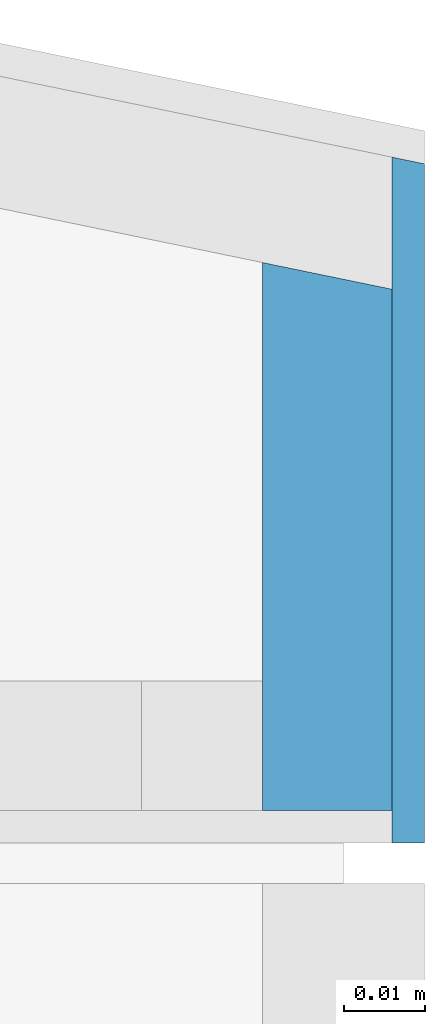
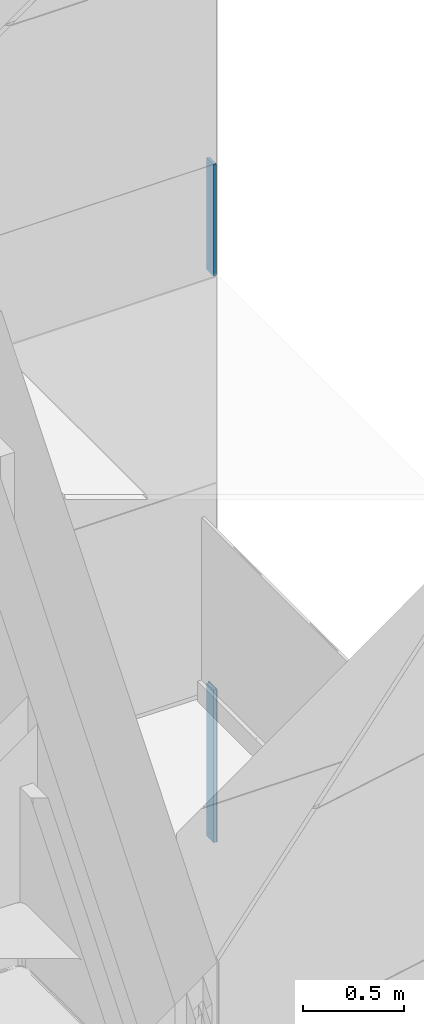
# One storey, part 31 of 125: 3 building element parts, 1 element without a shape of its own.
"""IFC2X3 building model written with IfcOpenShell, lengths in millimetres."""

from ifc_helpers import new_model, entity, si_unit, converted_unit, direction, frame, origin, place, context, subcontext, project, spatial, polyline, outline, extrude, material, type_object, element, aggregate, save


model = new_model("IFC2X3")

# Units and contexts
model_context = context("Model", 3, precision=0.01, world=origin(), true_north=direction((6.123233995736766e-17, 1.0)))
plan_context = context("Plan", 3, precision=0.01, world=origin(), true_north=direction((6.123233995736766e-17, 1.0)))
body_context = subcontext(model_context, "Body", "Model", "MODEL_VIEW")
ifc_project = project(units=[si_unit("LENGTHUNIT", "METRE", prefix="MILLI"), converted_unit("PLANEANGLEUNIT", "DEGREE", entity("IfcPlaneAngleMeasure", 0.017453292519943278), si_unit("PLANEANGLEUNIT", "RADIAN"), dimensions=[0, 0, 0, 0, 0, 0, 0]), si_unit("AREAUNIT", "SQUARE_METRE")], contexts=[model_context, plan_context])

# Site, building, storey
site_placement = place(None, origin())
site = spatial("IfcSite", under=ifc_project, at=site_placement, Name="Default", CompositionType="ELEMENT")
building_placement = place(site_placement, origin())
building = spatial("IfcBuilding", under=site, at=building_placement, CompositionType="ELEMENT")
storey_placement = place(building_placement, frame((0.0, 0.0, 3125.0)))
storey = spatial("IfcBuildingStorey", under=building, at=storey_placement, Name="2K", CompositionType="ELEMENT", Elevation=3125.0)

# Wall, building element parts
wall_type = type_object("IfcWallType", Name="Basic Wall:VS-komposiit", PredefinedType="STANDARD")
wall_placement = place(storey_placement, frame((18942.0, 5428.129167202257, -1010.0), z_axis=(0.0, 0.0, 1.0), x_axis=(0.0, -1.0, 0.0)))
wall = element("IfcWall", 1, at=wall_placement, inside=storey, type_object=wall_type, Name="Basic Wall:VS-komposiit", ObjectType="Basic Wall:VS-komposiit")
ifc_material_1 = material(Name="_K. Välisviimistlus. Alumiinium-komposiitplaat")
building_element_part_1_placement = place(wall_placement, origin())
building_element_part_1 = element("IfcBuildingElementPart", 2, at=building_element_part_1_placement, material=ifc_material_1, Name="Part", context=body_context, shape_type="SweptSolid", body=[
    extrude(outline(polyline([(-42.61260185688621, -2.0), (42.20013519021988, -2.0), (42.20013519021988, 2.0), (-41.78766852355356, 2.0), (-42.61260185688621, -2.0)])), frame((29.575620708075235, 8.0, 0.0)), (0.0, 0.0, 1.0), 922.4999999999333),
])
ifc_material_2 = material(Name="_K. Õhk. Roov. Fassaadikatte alusroov. Horisontaalne. 25 mm")
building_element_part_2_placement = place(wall_placement, origin())
building_element_part_2 = element("IfcBuildingElementPart", 3, at=building_element_part_2_placement, material=ifc_material_2, Name="Part", context=body_context, shape_type="SweptSolid", body=[
    extrude(outline(polyline([(-34.7128112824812, -8.0), (33.06294461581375, -8.0), (33.06294461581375, 8.0), (-31.41307794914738, 8.0), (-34.7128112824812, -8.0)])), frame((34.7128112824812, -2.0, 0.0)), (0.0, 0.0, 1.0), 922.4999999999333),
])
building_element_part_3_placement = place(wall_placement, origin())
building_element_part_3 = element("IfcBuildingElementPart", 4, at=building_element_part_3_placement, material=ifc_material_2, Name="Part", context=body_context, shape_type="SweptSolid", body=[
    extrude(outline(polyline([(-34.7128112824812, -8.0), (33.06294461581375, -8.0), (33.06294461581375, 8.0), (-31.413077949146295, 8.0), (-34.7128112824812, -8.0)])), frame((34.7128112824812, -2.0, 3417.4999999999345)), (0.0, 0.0, 1.0), 674.999999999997),
])
aggregate(wall, [building_element_part_1, building_element_part_2, building_element_part_3])

save(model, "model.ifc")
